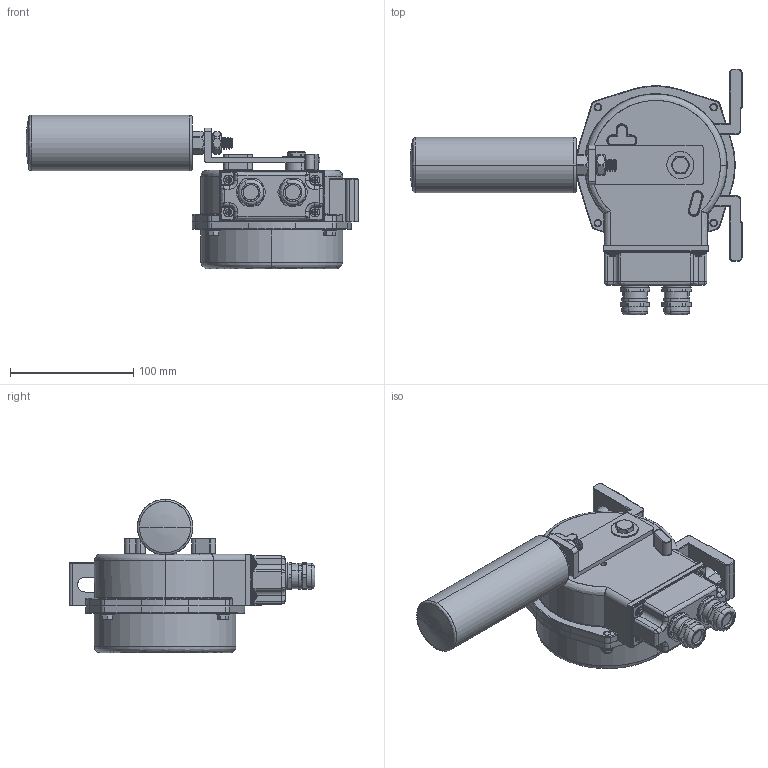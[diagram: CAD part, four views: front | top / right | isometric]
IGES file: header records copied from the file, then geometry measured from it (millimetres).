
Start section: SolidWorks IGES file using analytic representation for surfaces
Global section: file name: C:\Users\Äîì\Desktop\Äàò÷èêè ìîäåëè\BMS-N\Êîìïàñ\BMS-N àëþìèíèåâàÿ êðûøêà - ðåçüáà.IGS; native system: SolidWorks 2020; preprocessor: SolidWorks 2020; author: Äîì; date: 210207.234553; units: millimetre
Bounding box: 269.5 x 199.6 x 124.5 mm (x, y, z)
Surface area: 158873.5 mm2 (no closed solid volume)
Topology: 0 solids, 0 shells, 823 faces, 10288 edges, 10264 vertices
Faces by surface type: bspline 418, revolution 405
